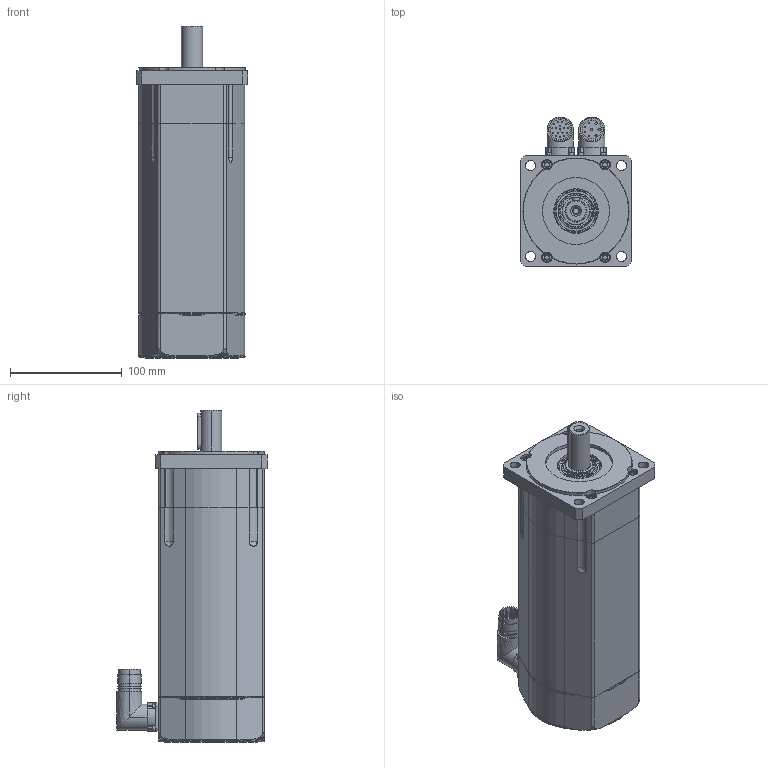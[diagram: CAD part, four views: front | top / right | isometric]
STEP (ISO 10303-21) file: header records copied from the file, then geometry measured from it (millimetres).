
FILE_DESCRIPTION (( 'STEP AP203' ), '1' );
FILE_NAME ('SSAX100M_HJ.STEP', '2015-09-10T14:51:42', ( 'Tecnico motori' ), ( '' ), 'SwSTEP 2.0', 'SolidWorks 2010', '' );
FILE_SCHEMA (( 'CONFIG_CONTROL_DESIGN' ));
Length unit declared in the file: millimetre
Products named in the file (1): SSAX100M_HJ
Bounding box: 100 x 134.5 x 297.5 mm (x, y, z)
Surface area: 133357.3 mm2 (no closed solid volume)
Topology: 0 solids, 37 shells, 495 faces, 1402 edges, 972 vertices
Faces by surface type: cylinder 217, plane 202, cone 40, torus 30, bspline 6
Entity records: 17738 total; most frequent: CARTESIAN_POINT 4495, DIRECTION 2938, ORIENTED_EDGE 2439, EDGE_CURVE 1402, AXIS2_PLACEMENT_3D 1159, VERTEX_POINT 972, CIRCLE 669, LINE 620
